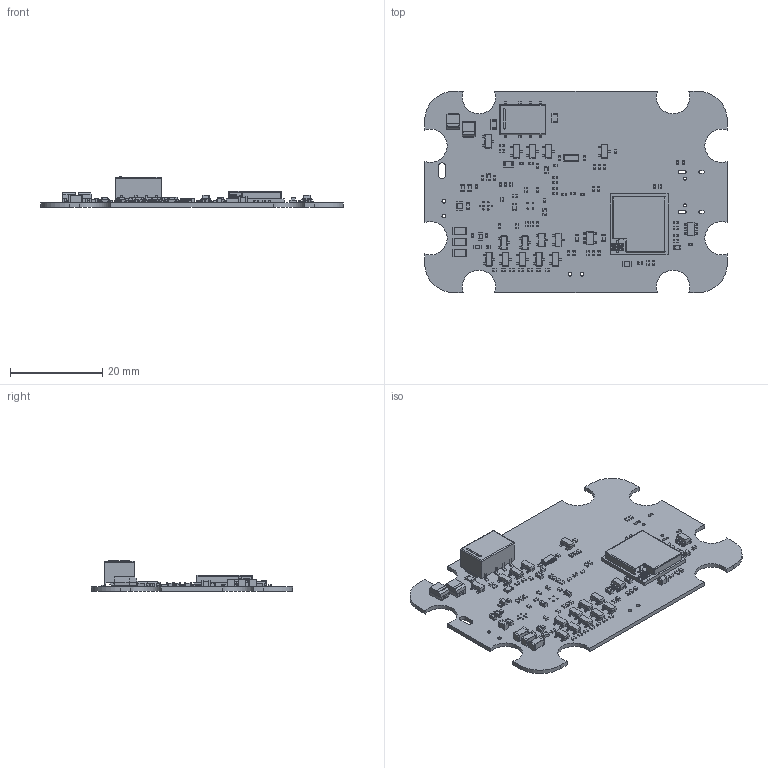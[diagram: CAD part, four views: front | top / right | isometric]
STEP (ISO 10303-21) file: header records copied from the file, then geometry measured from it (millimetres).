
FILE_DESCRIPTION(('KiCad electronic assembly'),'2;1');
FILE_NAME('AVO_GIRTH_PCB_FINAL_STEP.step','2026-10-29T14:56:29',( 'Pcbnew'),('Kicad'),'Open CASCADE STEP processor 7.6', 'KiCad to STEP converter','Unknown');
FILE_SCHEMA(('AUTOMOTIVE_DESIGN { 1 0 10303 214 1 1 1 1 }'));
Length unit declared in the file: millimetre
Products named in the file (49): AVO_GIRTH_PCB_FINAL_STEP 1; SOT-23; LED_0603_1608Metric; R_0402_1005Metric; C_0402_1005Metric; C_0603_1608Metric; Crystal_SMD_3215-2Pin_3.2x1.5mm; C_0805_2012Metric; CP_EIA-3528-21_Kemet-B; C_1206_3216Metric; Relay_DPDT_Omron_G6K-2F-Y; R_0805_2012Metric; SOT-23-6; SOT-23-5; ESP32-C6-MINI-1U; ESP32-C6-MINI-1U-body; DesignRootModel; uid__2428; Submodel-IPEX_4P_part_IPEX_4P; Submodel-D__3D_design_ESP32-C6_module_module_ESP32-C6-MINI-1U-3D_PCB_
ESP32-C6-MINI-1U_V1.1_20230317_PCB_3D_ImportedPartModels_ipx3.STEP; ipx3.xtd; Submodel-R0201_part_R0201; Submodel-D__3D_design_ESP32-C6_module_module_ESP32-C6-MINI-1U-3D_PCB_
ESP32-C6-MINI-1U_V1.1_20230317_PCB_3D_ImportedPartModels_R0201_
20210301.STEP; R0201_20210301.xtd; Submodel-L0201_part_L0201; Submodel-D__3D_design_ESP32-C6_module_module_ESP32-C6-MINI-1U-3D_PCB_
ESP32-C6-MINI-1U_V1.1_20230317_PCB_3D_ImportedPartModels_L0201_
20210301.STEP; L0201_20210301.xtd; Submodel-C0201_part_C0201; Submodel-D__3D_design_ESP32-C6_module_module_ESP32-C6-MINI-1U-3D_PCB_
ESP32-C6-MINI-1U_V1.1_20230317_PCB_3D_ImportedPartModels_C0201_
20210301.STEP; C0201_20210301.xtd; Submodel-C0402_part_C0402; Submodel-D__3D_design_ESP32-C6_module_module_ESP32-C6-MINI-1U-3D_PCB_
ESP32-C6-MINI-1U_V1.1_20230317_PCB_3D_ImportedPartModels_C0402_
20210301.STEP; C0402_20210301.xtd; Submodel-SOD882_part_SOD882; Submodel-D__3D_design_ESP32-C6_module_module_ESP32-C6-MINI-1U-3D_PCB_
ESP32-C6-MINI-1U_V1.1_20230317_PCB_3D_ImportedPartModels_DFN1006.STEP; DFN1006.xtd; Submodel-XTAL3225_part_XTAL3225; Submodel-D__3D_design_ESP32-C6_module_module_ESP32-C6-MINI-1U-3D_PCB_
ESP32-C6-MINI-1U_V1.1_20230317_PCB_3D_ImportedPartModels_XTAL3225_
20210301.STEP; XTAL3225_20210301.xtd; Submodel-QFN32_0P5_5_E3P7X3P2_part_QFN32_0P5_5_E3P7X3P2 ...
Assembly tree (151 placements, depth 7):
  AVO_GIRTH_PCB_FINAL_STEP 1
    SOT-23  x14
    LED_0603_1608Metric
    R_0402_1005Metric  x45
    C_0402_1005Metric  x19
    C_0603_1608Metric  x11
    Crystal_SMD_3215-2Pin_3.2x1.5mm
    C_0805_2012Metric  x2
    CP_EIA-3528-21_Kemet-B  x2
    C_1206_3216Metric  x3
    Relay_DPDT_Omron_G6K-2F-Y
    R_0805_2012Metric  x3
    SOT-23-6
    SOT-23-5
    ESP32-C6-MINI-1U
      ESP32-C6-MINI-1U-body
        DesignRootModel
          uid__2428
          Submodel-IPEX_4P_part_IPEX_4P
            Submodel-D__3D_design_ESP32-C6_module_module_ESP32-C6-MINI-1U-3D_PCB_
ESP32-C6-MINI-1U_V1.1_20230317_PCB_3D_ImportedPartModels_ipx3.STEP
              ipx3.xtd
          Submodel-R0201_part_R0201  x3
            Submodel-D__3D_design_ESP32-C6_module_module_ESP32-C6-MINI-1U-3D_PCB_
ESP32-C6-MINI-1U_V1.1_20230317_PCB_3D_ImportedPartModels_R0201_
20210301.STEP
              R0201_20210301.xtd
          Submodel-L0201_part_L0201  x2
            Submodel-D__3D_design_ESP32-C6_module_module_ESP32-C6-MINI-1U-3D_PCB_
ESP32-C6-MINI-1U_V1.1_20230317_PCB_3D_ImportedPartModels_L0201_
20210301.STEP
              L0201_20210301.xtd
          Submodel-C0201_part_C0201  x10
            Submodel-D__3D_design_ESP32-C6_module_module_ESP32-C6-MINI-1U-3D_PCB_
ESP32-C6-MINI-1U_V1.1_20230317_PCB_3D_ImportedPartModels_C0201_
20210301.STEP
              C0201_20210301.xtd
          Submodel-C0402_part_C0402
            Submodel-D__3D_design_ESP32-C6_module_module_ESP32-C6-MINI-1U-3D_PCB_
ESP32-C6-MINI-1U_V1.1_20230317_PCB_3D_ImportedPartModels_C0402_
20210301.STEP
              C0402_20210301.xtd
          Submodel-SOD882_part_SOD882
            Submodel-D__3D_design_ESP32-C6_module_module_ESP32-C6-MINI-1U-3D_PCB_
ESP32-C6-MINI-1U_V1.1_20230317_PCB_3D_ImportedPartModels_DFN1006.STEP
              DFN1006.xtd
          Submodel-XTAL3225_part_XTAL3225
            Submodel-D__3D_design_ESP32-C6_module_module_ESP32-C6-MINI-1U-3D_PCB_
ESP32-C6-MINI-1U_V1.1_20230317_PCB_3D_ImportedPartModels_XTAL3225_
20210301.STEP
              XTAL3225_20210301.xtd
          Submodel-QFN32_0P5_5_E3P7X3P2_part_QFN32_0P5_5_E3P7X3P2
            Submodel-D__3D_design_ESP32-C6_module_module_ESP32-C6-MINI-1U-3D_PCB_
ESP32-C6-MINI-1U_V1.1_20230317_PCB_3D_ImportedPartModels_ESP32-C6_QFN32_
5X5_202306.STEP
              ESP32-C6_QFN32_5X5_202306.xtd
          Submodel-TSSLP-2-1_132530003_part_TSSLP-2-1
            Submodel-noModelForPart_TSSLP-2-1_132530003
              placementOutline
        Imported
        C3-MINI-solder_pad
      ShieldBox_ESP32-C3-MINI-1U_V1.0_20201210
    AVO_GIRTH_PCB_PCB
Bounding box: 65.5 x 43.5 x 6.58 mm (x, y, z)
Volume: 3023 mm3; surface area: 7592.6 mm2
Topology: 285 solids, 286 shells, 6445 faces, 15992 edges, 10143 vertices
Faces by surface type: plane 3944, cylinder 1825, bspline 631, torus 36, cone 9
Full cylindrical faces by diameter (mm): 0.3 x12, 0.65 x2, 0.8 x4
Entity records: 89316 total; most frequent: CARTESIAN_POINT 21819, ORIENTED_EDGE 13868, DIRECTION 13216, EDGE_CURVE 6934, LINE 4926, VECTOR 4926, VERTEX_POINT 4501, AXIS2_PLACEMENT_3D 4145
